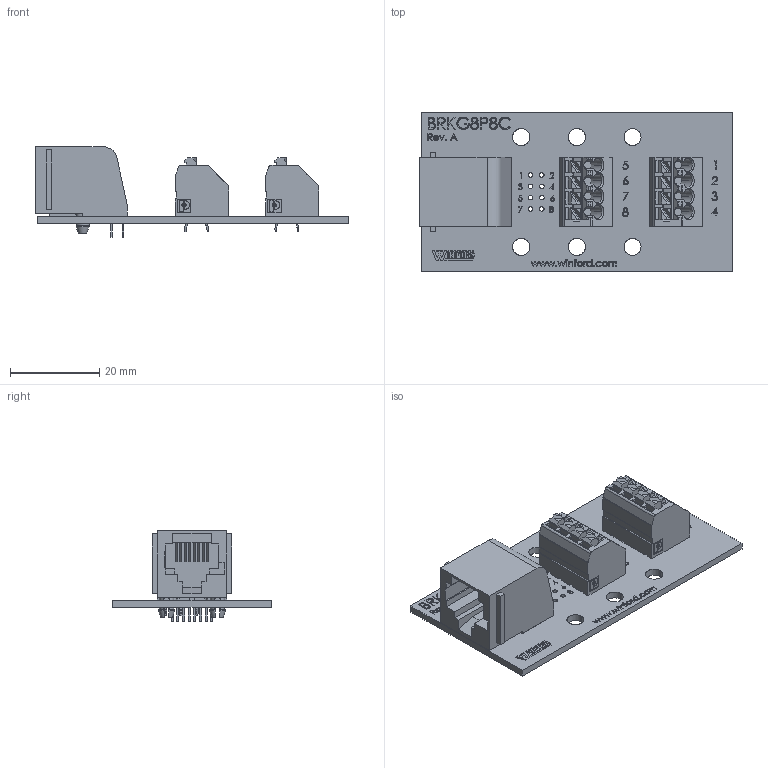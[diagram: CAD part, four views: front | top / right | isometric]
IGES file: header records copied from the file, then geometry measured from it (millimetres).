
Start section: SolidWorks IGES file using analytic representation for surfaces
Global section: file name: C:\Users\Jonny\Documents\Winford Engineering Jobs\BRKG8P8C\brkg8p8c-r-n_rev_a.igs; native system: SolidWorks 2017; preprocessor: SolidWorks 2017; author: Jonny; date: 171105.232208; units: inch
Bounding box: 70.23 x 35.56 x 20.32 mm (x, y, z)
Surface area: 10727.5 mm2 (no closed solid volume)
Topology: 0 solids, 0 shells, 1813 faces, 12902 edges, 12902 vertices
Faces by surface type: bspline 1399, revolution 414
